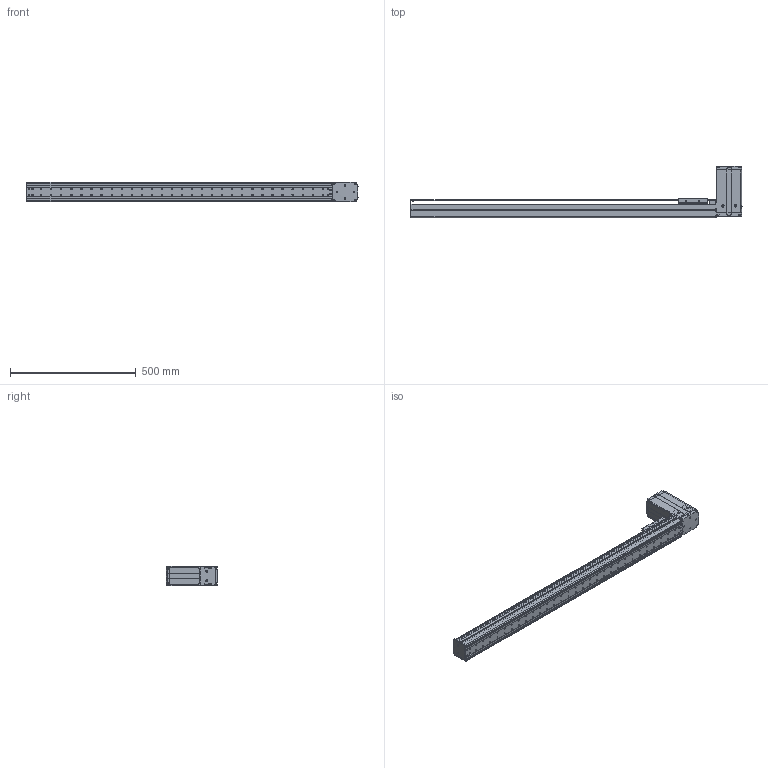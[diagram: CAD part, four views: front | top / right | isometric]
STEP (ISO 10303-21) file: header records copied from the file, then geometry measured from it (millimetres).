
FILE_DESCRIPTION((''),'2;1');
FILE_NAME('BE10_-BT-M_N-A0_IGS_PRT','2017-06-18T',(' '),(''),'PRO/ENGINEER BY PARAMETRIC TECHNOLOGY CORPORATION, 2015030','PRO/ENGINEER BY PARAMETRIC TECHNOLOGY CORPORATION, 2015030','');
FILE_SCHEMA(('CONFIG_CONTROL_DESIGN'));
Products named in the file (1): BE10_-BT-M_N-A0_IGS_PRT
Bounding box: 1320.8 x 204.72 x 78 mm (x, y, z)
Volume: 1606073 mm3; surface area: 1143609.5 mm2
Topology: 3 solids, 152 shells, 2151 faces, 5875 edges, 3877 vertices
Faces by surface type: plane 1002, cylinder 978, cone 111, sphere 30, torus 27, bspline 3
Entity records: 69985 total; most frequent: CARTESIAN_POINT 14295, DIRECTION 11831, ORIENTED_EDGE 11106, EDGE_CURVE 5813, AXIS2_PLACEMENT_3D 4272, VERTEX_POINT 3877, VECTOR 3287, LINE 3287
